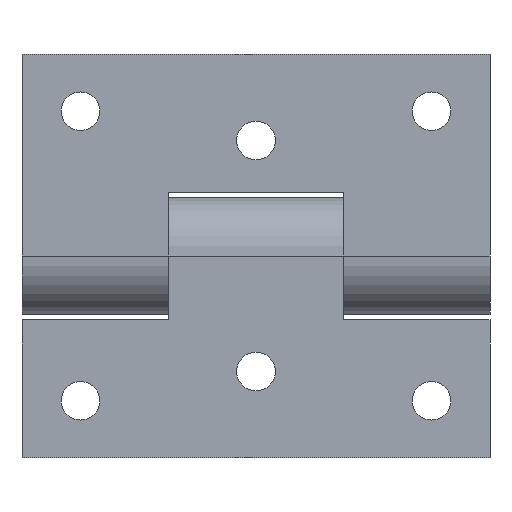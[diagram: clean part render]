
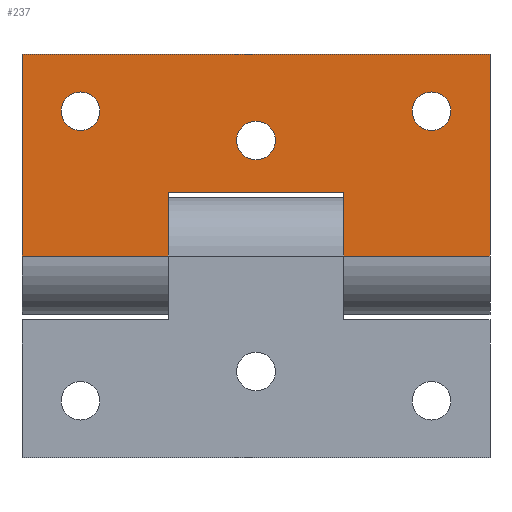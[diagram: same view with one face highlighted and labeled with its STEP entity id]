
A CAD part, front view. The second image highlights one B-rep face of the part: STEP entity #237.
In plain terms, the highlighted planar face has unit normal (0, -1, 0).
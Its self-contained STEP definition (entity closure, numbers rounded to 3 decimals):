
#7 = CARTESIAN_POINT ( 'NONE',  ( 15., 0., 0. ) ) ;
#14 = AXIS2_PLACEMENT_3D ( 'NONE', #504, #1287, #2479 ) ;
#67 = EDGE_LOOP ( 'NONE', ( #1475, #2541 ) ) ;
#70 = AXIS2_PLACEMENT_3D ( 'NONE', #1670, #1341, #2464 ) ;
#74 = CIRCLE ( 'NONE', #70, 3.3 ) ;
#80 = CARTESIAN_POINT ( 'NONE',  ( 0., 0., -19.75 ) ) ;
#110 = VECTOR ( 'NONE', #646, 1000. ) ;
#153 = DIRECTION ( 'NONE',  ( 0., 0., -1. ) ) ;
#158 = ORIENTED_EDGE ( 'NONE', *, *, #2224, .T. ) ;
#175 = DIRECTION ( 'NONE',  ( -1., 0., 0. ) ) ;
#187 = EDGE_LOOP ( 'NONE', ( #2147, #573, #1494, #1146, #1830, #938, #158, #618 ) ) ;
#201 = EDGE_CURVE ( 'NONE', #1267, #2508, #814, .T. ) ;
#209 = CARTESIAN_POINT ( 'NONE',  ( 0., 0., -19.75 ) ) ;
#237 = ADVANCED_FACE ( 'NONE', ( #1554, #1633, #1263, #1020 ), #1805, .F. ) ;
#244 = DIRECTION ( 'NONE',  ( 0., 0., 1. ) ) ;
#284 = VERTEX_POINT ( 'NONE', #7 ) ;
#380 = CARTESIAN_POINT ( 'NONE',  ( 40., 0., 0. ) ) ;
#427 = CARTESIAN_POINT ( 'NONE',  ( 40., 0., 0. ) ) ;
#431 = LINE ( 'NONE', #1207, #2151 ) ;
#433 = CARTESIAN_POINT ( 'NONE',  ( -15., 0., -10.911 ) ) ;
#443 = AXIS2_PLACEMENT_3D ( 'NONE', #868, #475, #244 ) ;
#449 = VERTEX_POINT ( 'NONE', #1709 ) ;
#463 = EDGE_CURVE ( 'NONE', #471, #1966, #776, .T. ) ;
#471 = VERTEX_POINT ( 'NONE', #2134 ) ;
#473 = CARTESIAN_POINT ( 'NONE',  ( 40., 0., 0. ) ) ;
#475 = DIRECTION ( 'NONE',  ( 0., 1., 0. ) ) ;
#486 = VERTEX_POINT ( 'NONE', #1771 ) ;
#504 = CARTESIAN_POINT ( 'NONE',  ( 30., 0., -24.75 ) ) ;
#553 = DIRECTION ( 'NONE',  ( 0., 0., 1. ) ) ;
#573 = ORIENTED_EDGE ( 'NONE', *, *, #1229, .T. ) ;
#581 = DIRECTION ( 'NONE',  ( 0., 1., 0. ) ) ;
#609 = AXIS2_PLACEMENT_3D ( 'NONE', #1715, #2090, #1492 ) ;
#612 = CARTESIAN_POINT ( 'NONE',  ( 0., 0., -23.05 ) ) ;
#618 = ORIENTED_EDGE ( 'NONE', *, *, #979, .T. ) ;
#624 = CARTESIAN_POINT ( 'NONE',  ( -15., 0., -10.911 ) ) ;
#637 = EDGE_CURVE ( 'NONE', #471, #284, #1410, .T. ) ;
#646 = DIRECTION ( 'NONE',  ( -1., 0., 0. ) ) ;
#650 = AXIS2_PLACEMENT_3D ( 'NONE', #1940, #965, #1581 ) ;
#694 = VECTOR ( 'NONE', #1965, 1000. ) ;
#721 = CIRCLE ( 'NONE', #14, 3.3 ) ;
#734 = CIRCLE ( 'NONE', #609, 3.3 ) ;
#748 = ORIENTED_EDGE ( 'NONE', *, *, #775, .T. ) ;
#775 = EDGE_CURVE ( 'NONE', #796, #2188, #1472, .T. ) ;
#776 = LINE ( 'NONE', #380, #694 ) ;
#796 = VERTEX_POINT ( 'NONE', #1931 ) ;
#814 = CIRCLE ( 'NONE', #650, 3.3 ) ;
#846 = CIRCLE ( 'NONE', #1949, 3.3 ) ;
#868 = CARTESIAN_POINT ( 'NONE',  ( 40., 0., 0. ) ) ;
#879 = DIRECTION ( 'NONE',  ( 0., 1., 0. ) ) ;
#938 = ORIENTED_EDGE ( 'NONE', *, *, #637, .T. ) ;
#945 = EDGE_LOOP ( 'NONE', ( #748, #1651 ) ) ;
#948 = CARTESIAN_POINT ( 'NONE',  ( -15., 0., -10.911 ) ) ;
#952 = CARTESIAN_POINT ( 'NONE',  ( 40., 0., -34.5 ) ) ;
#965 = DIRECTION ( 'NONE',  ( 0., 1., 0. ) ) ;
#979 = EDGE_CURVE ( 'NONE', #1281, #1782, #2550, .T. ) ;
#1020 = FACE_OUTER_BOUND ( 'NONE', #187, .T. ) ;
#1047 = DIRECTION ( 'NONE',  ( -1., 0., 0. ) ) ;
#1082 = VERTEX_POINT ( 'NONE', #2519 ) ;
#1084 = VECTOR ( 'NONE', #1047, 1000. ) ;
#1106 = LINE ( 'NONE', #1888, #1084 ) ;
#1128 = VERTEX_POINT ( 'NONE', #1262 ) ;
#1141 = VECTOR ( 'NONE', #1353, 1000. ) ;
#1146 = ORIENTED_EDGE ( 'NONE', *, *, #2149, .F. ) ;
#1207 = CARTESIAN_POINT ( 'NONE',  ( 15., 0., -10.911 ) ) ;
#1216 = AXIS2_PLACEMENT_3D ( 'NONE', #209, #581, #553 ) ;
#1229 = EDGE_CURVE ( 'NONE', #1128, #1082, #2189, .T. ) ;
#1262 = CARTESIAN_POINT ( 'NONE',  ( -15., 0., 0. ) ) ;
#1263 = FACE_BOUND ( 'NONE', #945, .T. ) ;
#1267 = VERTEX_POINT ( 'NONE', #2449 ) ;
#1281 = VERTEX_POINT ( 'NONE', #1528 ) ;
#1287 = DIRECTION ( 'NONE',  ( 0., 1., 0. ) ) ;
#1315 = LINE ( 'NONE', #2099, #2257 ) ;
#1341 = DIRECTION ( 'NONE',  ( 0., 1., 0. ) ) ;
#1353 = DIRECTION ( 'NONE',  ( 0., 0., 1. ) ) ;
#1356 = EDGE_CURVE ( 'NONE', #2508, #1267, #74, .T. ) ;
#1393 = LINE ( 'NONE', #624, #1141 ) ;
#1410 = LINE ( 'NONE', #473, #110 ) ;
#1472 = CIRCLE ( 'NONE', #1216, 3.3 ) ;
#1475 = ORIENTED_EDGE ( 'NONE', *, *, #201, .T. ) ;
#1492 = DIRECTION ( 'NONE',  ( 0., 0., 1. ) ) ;
#1494 = ORIENTED_EDGE ( 'NONE', *, *, #1767, .T. ) ;
#1522 = ORIENTED_EDGE ( 'NONE', *, *, #2486, .T. ) ;
#1528 = CARTESIAN_POINT ( 'NONE',  ( 15., 0., -10.911 ) ) ;
#1554 = FACE_BOUND ( 'NONE', #67, .T. ) ;
#1581 = DIRECTION ( 'NONE',  ( 0., 0., 1. ) ) ;
#1633 = FACE_BOUND ( 'NONE', #2502, .T. ) ;
#1651 = ORIENTED_EDGE ( 'NONE', *, *, #2439, .T. ) ;
#1659 = DIRECTION ( 'NONE',  ( 0., 0., 1. ) ) ;
#1670 = CARTESIAN_POINT ( 'NONE',  ( -30., 0., -24.75 ) ) ;
#1709 = CARTESIAN_POINT ( 'NONE',  ( 30., 0., -21.45 ) ) ;
#1715 = CARTESIAN_POINT ( 'NONE',  ( 30., 0., -24.75 ) ) ;
#1728 = EDGE_CURVE ( 'NONE', #486, #449, #734, .T. ) ;
#1767 = EDGE_CURVE ( 'NONE', #1082, #2265, #1315, .T. ) ;
#1771 = CARTESIAN_POINT ( 'NONE',  ( 30., 0., -28.05 ) ) ;
#1782 = VERTEX_POINT ( 'NONE', #433 ) ;
#1796 = VECTOR ( 'NONE', #175, 1000. ) ;
#1805 = PLANE ( 'NONE',  #443 ) ;
#1830 = ORIENTED_EDGE ( 'NONE', *, *, #463, .F. ) ;
#1881 = CARTESIAN_POINT ( 'NONE',  ( -30., 0., -28.05 ) ) ;
#1886 = EDGE_CURVE ( 'NONE', #1782, #1128, #1393, .T. ) ;
#1888 = CARTESIAN_POINT ( 'NONE',  ( 40., 0., -34.5 ) ) ;
#1931 = CARTESIAN_POINT ( 'NONE',  ( 0., 0., -16.45 ) ) ;
#1940 = CARTESIAN_POINT ( 'NONE',  ( -30., 0., -24.75 ) ) ;
#1949 = AXIS2_PLACEMENT_3D ( 'NONE', #80, #879, #1659 ) ;
#1965 = DIRECTION ( 'NONE',  ( 0., 0., -1. ) ) ;
#1966 = VERTEX_POINT ( 'NONE', #952 ) ;
#1982 = CARTESIAN_POINT ( 'NONE',  ( -40., 0., -34.5 ) ) ;
#1993 = DIRECTION ( 'NONE',  ( 0., 0., -1. ) ) ;
#2027 = DIRECTION ( 'NONE',  ( -1., 0., 0. ) ) ;
#2090 = DIRECTION ( 'NONE',  ( 0., 1., 0. ) ) ;
#2099 = CARTESIAN_POINT ( 'NONE',  ( -40., 0., 0. ) ) ;
#2134 = CARTESIAN_POINT ( 'NONE',  ( 40., 0., 0. ) ) ;
#2147 = ORIENTED_EDGE ( 'NONE', *, *, #1886, .T. ) ;
#2149 = EDGE_CURVE ( 'NONE', #1966, #2265, #1106, .T. ) ;
#2151 = VECTOR ( 'NONE', #1993, 1000. ) ;
#2164 = VECTOR ( 'NONE', #2027, 1000. ) ;
#2188 = VERTEX_POINT ( 'NONE', #612 ) ;
#2189 = LINE ( 'NONE', #427, #2164 ) ;
#2224 = EDGE_CURVE ( 'NONE', #284, #1281, #431, .T. ) ;
#2257 = VECTOR ( 'NONE', #153, 1000. ) ;
#2265 = VERTEX_POINT ( 'NONE', #1982 ) ;
#2299 = ORIENTED_EDGE ( 'NONE', *, *, #1728, .T. ) ;
#2439 = EDGE_CURVE ( 'NONE', #2188, #796, #846, .T. ) ;
#2449 = CARTESIAN_POINT ( 'NONE',  ( -30., 0., -21.45 ) ) ;
#2464 = DIRECTION ( 'NONE',  ( 0., 0., 1. ) ) ;
#2479 = DIRECTION ( 'NONE',  ( 0., 0., 1. ) ) ;
#2486 = EDGE_CURVE ( 'NONE', #449, #486, #721, .T. ) ;
#2502 = EDGE_LOOP ( 'NONE', ( #1522, #2299 ) ) ;
#2508 = VERTEX_POINT ( 'NONE', #1881 ) ;
#2519 = CARTESIAN_POINT ( 'NONE',  ( -40., 0., 0. ) ) ;
#2541 = ORIENTED_EDGE ( 'NONE', *, *, #1356, .T. ) ;
#2550 = LINE ( 'NONE', #948, #1796 ) ;
